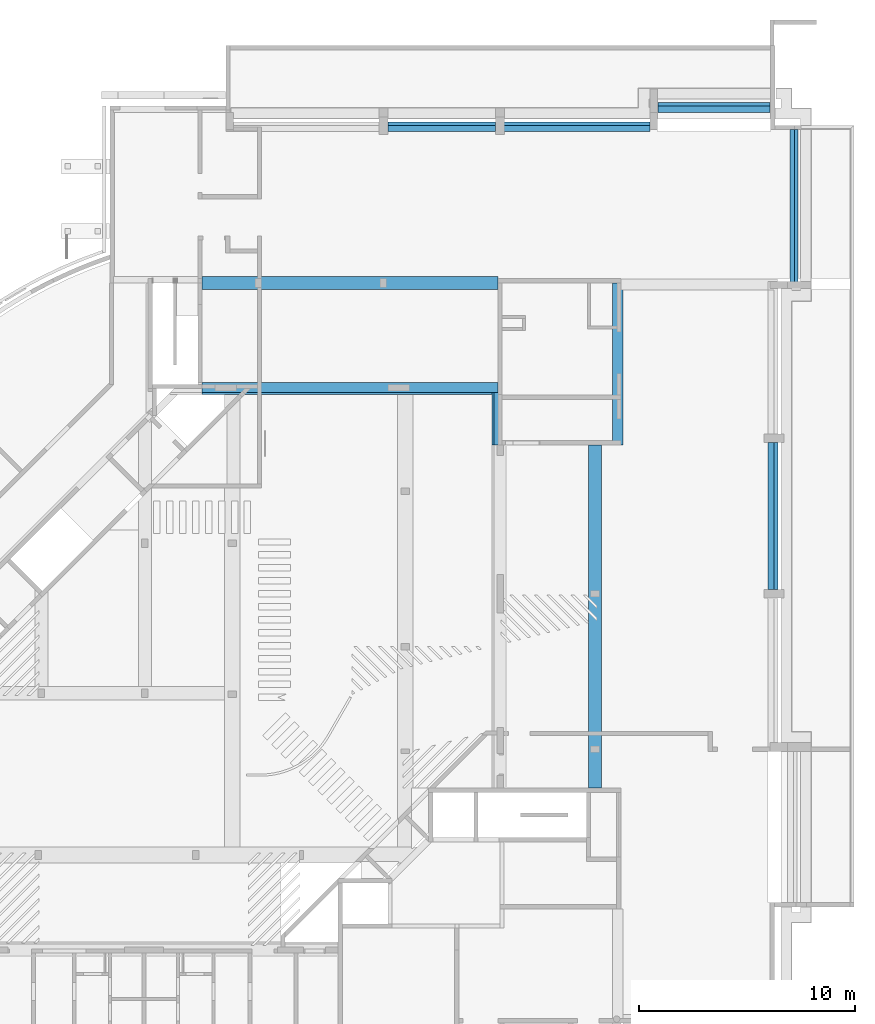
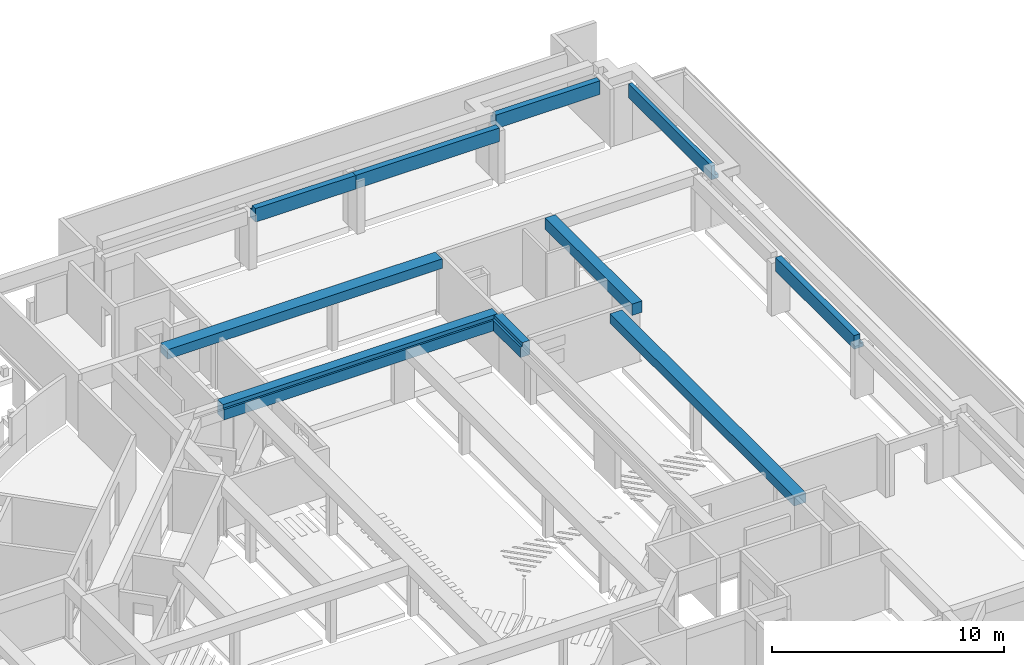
# One storey, part 3 of 22: 10 beams.
"""IFC4X3_ADD2 building model written with IfcOpenShell, lengths in millimetres."""

from ifc_helpers import new_model, si_unit, direction, frame, frame_2d, origin_with_axes, origin_2d_with_axis, place, context, subcontext, project, spatial, polyline, rectangle, outline, extrude, source, transform, mapped, material, type_object, type_shapes, element, save


model = new_model("IFC4X3_ADD2")

# Units and contexts
model_context = context("Model", 3, precision=1e-05, world=origin_with_axes(), true_north=direction((0.0, 1.0)))
body_context = subcontext(model_context, "Body", "Model", "MODEL_VIEW")
ifc_project = project(units=[si_unit("LENGTHUNIT", "METRE", prefix="MILLI"), si_unit("AREAUNIT", "SQUARE_METRE"), si_unit("VOLUMEUNIT", "CUBIC_METRE"), si_unit("PLANEANGLEUNIT", "RADIAN"), si_unit("TIMEUNIT", "SECOND"), si_unit("MASSUNIT", "GRAM")], contexts=[model_context])

# Site, building, storey
site_placement = place(None, origin_with_axes())
site = spatial("IfcSite", under=ifc_project, at=site_placement, Name="Site", CompositionType="ELEMENT")
building_placement = place(site_placement, origin_with_axes())
building = spatial("IfcBuilding", under=site, at=building_placement, Name="IFC Building Story")
storey_placement = place(building_placement, frame((0.0, 0.0, -3240.0), z_axis=(0.0, 0.0, 1.0), x_axis=(1.0, 0.0, 0.0)))
storey = spatial("IfcBuildingStorey", under=building, at=storey_placement, Name="K10", Elevation=-3240.0)

# Beams
ifc_material = material(Name="BB_Beton_Bestaand")
beam_type_1 = type_object("IfcBeamType", Name="BB_XX_Betonbalk_ L-vorm_ center-center_SFB_570 x 750 mm - 100 x 200 mm1", PredefinedType="NOTDEFINED")
shared_shape_1 = source(origin_with_axes(), body_context, "Body", "SweptSolid", [
    extrude(outline(polyline([(116.6666666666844, 223.3333333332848), (116.6666666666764, 123.3333333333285), (316.6666666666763, 123.3333333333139), (316.6666666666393, -346.6666666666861), (-433.3333333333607, -346.6666666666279), (-433.3333333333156, 223.3333333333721), (116.6666666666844, 223.3333333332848)])), frame((-26400.0, 38553.32926744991, -516.6666666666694), z_axis=(1.0, 0.0, 0.0), x_axis=(0.0, 0.0, 1.0)), (0.0, 0.0, 1.0), 13699.9959341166),
])
type_shapes(beam_type_1, [shared_shape_1])
beam_1_placement = place(storey_placement, frame((0.0, 0.0, 3240.0), z_axis=(0.0, 0.0, 1.0), x_axis=(1.0, 0.0, 0.0)))
element("IfcBeam", 1, at=beam_1_placement, inside=storey, type_object=beam_type_1, material=ifc_material, Name="BB_XX_Betonbalk, L-vorm, center-center_SFB:570 x 750 mm - 100 x 200 mm", ObjectType="570 x 750 mm - 100 x 200 mm", PredefinedType="BEAM", context=body_context, shape_type="MappedRepresentation", body=[
    mapped(shared_shape_1, transform((0.0, 0.0, 0.0))),
])
beam_type_2 = type_object("IfcBeamType", Name="BB_XX_Betonbalk_ rechthoekig_ center-center_SFB_600 x 500 mm45", PredefinedType="NOTDEFINED")
shared_shape_2 = source(origin_with_axes(), body_context, "Body", "SweptSolid", [
    extrude(rectangle(XDim=15900.0000000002, YDim=600.0, at=frame_2d((0.0, 0.0), x_axis=(0.0, 1.0))), frame((-8200.0, 28049.9999999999, -700.0), z_axis=(0.0, 0.0, 1.0), x_axis=(1.0, 0.0, 0.0)), (0.0, 0.0, 1.0), 500.0),
])
type_shapes(beam_type_2, [shared_shape_2])
beam_2_placement = place(storey_placement, frame((0.0, 0.0, 3240.0), z_axis=(0.0, 0.0, 1.0), x_axis=(1.0, 0.0, 0.0)))
element("IfcBeam", 2, at=beam_2_placement, inside=storey, type_object=beam_type_2, material=ifc_material, Name="BB_XX_Betonbalk, rechthoekig, center-center_SFB:600 x 500 mm", ObjectType="600 x 500 mm", PredefinedType="BEAM", context=body_context, shape_type="MappedRepresentation", body=[
    mapped(shared_shape_2, transform((0.0, 0.0, 0.0))),
])
beam_type_3 = type_object("IfcBeamType", Name="BB_XX_Betonbalk_ rechthoekig_ center-center_SFB_500 x 600 mm1", PredefinedType="NOTDEFINED")
shared_shape_3 = source(origin_with_axes(), body_context, "Body", "SweptSolid", [
    extrude(rectangle(XDim=7499.999999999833, YDim=500.0, at=frame_2d((0.0, 0.0), x_axis=(0.0, 1.0))), frame((-7150.0, 39749.99999999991, -680.0), z_axis=(0.0, 0.0, 1.0), x_axis=(1.0, 0.0, 0.0)), (0.0, 0.0, 1.0), 600.0),
])
type_shapes(beam_type_3, [shared_shape_3])
beam_3_placement = place(storey_placement, frame((0.0, 0.0, 3240.0), z_axis=(0.0, 0.0, 1.0), x_axis=(1.0, 0.0, 0.0)))
element("IfcBeam", 3, at=beam_3_placement, inside=storey, type_object=beam_type_3, material=ifc_material, Name="BB_XX_Betonbalk, rechthoekig, center-center_SFB:500 x 600 mm", ObjectType="600 x 500 mm", PredefinedType="BEAM", context=body_context, shape_type="MappedRepresentation", body=[
    mapped(shared_shape_3, transform((0.0, 0.0, 0.0))),
])
beam_type_4 = type_object("IfcBeamType", Name="BB_XX_Betonbalk_ L-vorm_ center-center_SFB_470 x 750 mm - 100 x 200 mm", PredefinedType="NOTDEFINED")
shared_shape_4 = source(origin_with_axes(), body_context, "Body", "SweptSolid", [
    extrude(outline(polyline([(-190.0, 433.3333333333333), (280.0, 433.3333333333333), (280.0, -316.6666666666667), (-90.0, -316.6666666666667), (-90.0, -116.6666666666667), (-190.0, -116.6666666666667), (-190.0, 433.3333333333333)])), frame((-12780.0, 35999.99999999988, -516.6666666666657), z_axis=(0.0, 1.0, 0.0), x_axis=(1.0, 0.0, 0.0)), (0.0, 0.0, 1.0), 2429.99593411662),
])
type_shapes(beam_type_4, [shared_shape_4])
beam_4_placement = place(storey_placement, frame((0.0, 0.0, 3240.0), z_axis=(0.0, 0.0, 1.0), x_axis=(1.0, 0.0, 0.0)))
element("IfcBeam", 4, at=beam_4_placement, inside=storey, type_object=beam_type_4, material=ifc_material, Name="BB_XX_Betonbalk, L-vorm, center-center_SFB:470 x 750 mm - 100 x 200 mm", ObjectType="470 x 750 mm - 100 x 200 mm", PredefinedType="BEAM", context=body_context, shape_type="MappedRepresentation", body=[
    mapped(shared_shape_4, transform((0.0, 0.0, 0.0))),
])
beam_type_5 = type_object("IfcBeamType", Name="BB_XX_Betonbalk_ rechthoekig_ center-center_SFB_600 x 500 mm49", PredefinedType="NOTDEFINED")
shared_shape_5 = source(origin_with_axes(), body_context, "Body", "SweptSolid", [
    extrude(rectangle(XDim=13699.9959341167, YDim=600.0, at=origin_2d_with_axis()), frame((-4.001776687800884e-11, 0.0, -250.0), z_axis=(0.0, 0.0, 1.0), x_axis=(1.0, 0.0, 0.0)), (0.0, 0.0, 1.0), 500.0),
])
type_shapes(beam_type_5, [shared_shape_5])
beam_5_placement = place(storey_placement, frame((-19550.002032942, 43500.0, 2790.0), z_axis=(0.0, 0.0, 1.0), x_axis=(1.0, 0.0, 0.0)))
element("IfcBeam", 5, at=beam_5_placement, inside=storey, type_object=beam_type_5, material=ifc_material, Name="BB_XX_Betonbalk, rechthoekig, center-center_SFB:600 x 500 mm", ObjectType="600 x 500 mm", PredefinedType="BEAM", context=body_context, shape_type="MappedRepresentation", body=[
    mapped(shared_shape_5, transform((0.0, 0.0, 0.0))),
])
beam_type_6 = type_object("IfcBeamType", Name="BB_XX_Betonbalk_ L-vorm_ center-center_SFB_460 x 720 mm - 170 x 510 mm1", PredefinedType="NOTDEFINED")
shared_shape_6 = source(origin_with_axes(), body_context, "Body", "SweptSolid", [
    extrude(outline(polyline([(410.000000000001, 249.9999999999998), (410.000000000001, -40.0), (-100.000000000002, -39.99999999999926), (-100.000000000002, -210.0), (-309.999999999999, -210.0), (-309.999999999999, 249.9999999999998), (410.000000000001, 249.9999999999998)])), frame((-3400.0, 19.99999999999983, -49.99999999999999), z_axis=(1.0, 0.0, 0.0), x_axis=(0.0, 0.0, 1.0)), (0.0, 0.0, 1.0), 6800.00000000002),
])
type_shapes(beam_type_6, [shared_shape_6])
beam_6_placement = place(storey_placement, frame((35.0, 32700.0, 2680.0), z_axis=(0.0, 0.0, 1.0), x_axis=(0.0, -1.0, 0.0)))
element("IfcBeam", 6, at=beam_6_placement, inside=storey, type_object=beam_type_6, material=ifc_material, Name="BB_XX_Betonbalk, L-vorm, center-center_SFB:460 x 720 mm - 170 x 510 mm", ObjectType="460 x 720 mm - 170 x 510 mm", PredefinedType="BEAM", context=body_context, shape_type="MappedRepresentation", body=[
    mapped(shared_shape_6, transform((0.0, 0.0, 0.0))),
])
beam_type_7 = type_object("IfcBeamType", Name="BB_XX_Betonbalk_ L-vorm_ center-center_SFB_360 x 720 mm - 170 x 520 mm", PredefinedType="NOTDEFINED")
shared_shape_7 = source(origin_with_axes(), body_context, "Body", "SweptSolid", [
    extrude(outline(polyline([(176.6666666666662, 106.6666666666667), (6.666666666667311, 106.6666666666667), (6.666666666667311, -413.3333333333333), (-183.3333333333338, -413.3333333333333), (-183.3333333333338, 306.6666666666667), (176.6666666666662, 306.6666666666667), (176.6666666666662, 106.6666666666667)])), frame((1023.33333333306, 43425.00000000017, -613.3333333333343), z_axis=(0.0, 1.0, 0.0), x_axis=(1.0, 0.0, 0.0)), (0.0, 0.0, 1.0), 7175.02750775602),
])
type_shapes(beam_type_7, [shared_shape_7])
beam_7_placement = place(storey_placement, frame((0.0, 0.0, 3240.0), z_axis=(0.0, 0.0, 1.0), x_axis=(1.0, 0.0, 0.0)))
element("IfcBeam", 7, at=beam_7_placement, inside=storey, type_object=beam_type_7, material=ifc_material, Name="BB_XX_Betonbalk, L-vorm, center-center_SFB:360 x 720 mm - 170 x 520 mm", ObjectType="360 x 720 mm - 170 x 520 mm", PredefinedType="BEAM", context=body_context, shape_type="MappedRepresentation", body=[
    mapped(shared_shape_7, transform((0.0, 0.0, 0.0))),
])
beam_type_8 = type_object("IfcBeamType", Name="BB_XX_Betonbalk_ L-vorm_ center-center_SFB_460 x 720 mm - 170 x 270 mm", PredefinedType="NOTDEFINED")
shared_shape_8 = source(origin_with_axes(), body_context, "Body", "SweptSolid", [
    extrude(outline(polyline([(329.999999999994, 250.0000000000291), (330.000000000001, -39.99999999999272), (60.0, -40.0), (60.00000000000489, -209.9999999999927), (-389.999999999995, -210.0000000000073), (-390.000000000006, 249.9999999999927), (329.999999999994, 250.0000000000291)])), frame((-5292.299999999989, 51655.0, -530.0), z_axis=(1.0, 0.0, 0.0), x_axis=(0.0, 0.0, 1.0)), (0.0, 0.0, 1.0), 5192.300000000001),
])
type_shapes(beam_type_8, [shared_shape_8])
beam_8_placement = place(storey_placement, frame((0.0, 0.0, 3240.0), z_axis=(0.0, 0.0, 1.0), x_axis=(1.0, 0.0, 0.0)))
element("IfcBeam", 8, at=beam_8_placement, inside=storey, type_object=beam_type_8, material=ifc_material, Name="BB_XX_Betonbalk, L-vorm, center-center_SFB:460 x 720 mm - 170 x 270 mm", ObjectType="460 x 720 mm - 170 x 270 mm", PredefinedType="BEAM", context=body_context, shape_type="MappedRepresentation", body=[
    mapped(shared_shape_8, transform((0.0, 0.0, 0.0))),
])
beam_type_9 = type_object("IfcBeamType", Name="BB_XX_Betonbalk_ L-vorm_ center-center_SFB_460 x 720 mm - 170 x 250 mm", PredefinedType="NOTDEFINED")
shared_shape_9 = source(origin_with_axes(), body_context, "Body", "SweptSolid", [
    extrude(outline(polyline([(323.3333333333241, 250.0000000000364), (323.3333333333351, -39.99999999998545), (73.33333333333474, -40.00000000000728), (73.33333333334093, -210.0), (-396.6666666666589, -210.0000000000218), (-396.666666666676, 249.9999999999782), (323.3333333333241, 250.0000000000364)])), frame((-12845.0, 50755.0, -523.3333333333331), z_axis=(1.0, 0.0, 0.0), x_axis=(0.0, 0.0, 1.0)), (0.0, 0.0, 1.0), 7200.0000000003),
])
type_shapes(beam_type_9, [shared_shape_9])
beam_9_placement = place(storey_placement, frame((0.0, 0.0, 3240.0), z_axis=(0.0, 0.0, 1.0), x_axis=(1.0, 0.0, 0.0)))
element("IfcBeam", 9, at=beam_9_placement, inside=storey, type_object=beam_type_9, material=ifc_material, Name="BB_XX_Betonbalk, L-vorm, center-center_SFB:460 x 720 mm - 170 x 250 mm", ObjectType="460 x 720 mm - 170 x 250 mm", PredefinedType="BEAM", context=body_context, shape_type="MappedRepresentation", body=[
    mapped(shared_shape_9, transform((0.0, 0.0, 0.0))),
])
beam_type_10 = type_object("IfcBeamType", Name="BB_XX_Betonbalk_ L-vorm_ center-center_SFB_460 x 720 mm - 170 x 250 mm1", PredefinedType="NOTDEFINED")
shared_shape_10 = source(origin_with_axes(), body_context, "Body", "SweptSolid", [
    extrude(outline(polyline([(323.3333333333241, 250.0000000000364), (323.3333333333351, -39.99999999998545), (73.33333333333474, -40.00000000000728), (73.33333333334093, -210.0), (-396.6666666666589, -210.0000000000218), (-396.666666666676, 249.9999999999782), (323.3333333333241, 250.0000000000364)])), frame((-2500.0, 20.0, 36.66666666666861), z_axis=(1.0, 0.0, 0.0), x_axis=(0.0, 0.0, 1.0)), (0.0, 0.0, 1.0), 5000.0),
])
type_shapes(beam_type_10, [shared_shape_10])
beam_10_placement = place(storey_placement, frame((-15299.3313868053, 50735.0, 2680.0), z_axis=(0.0, 0.0, 1.0), x_axis=(1.0, 0.0, 0.0)))
element("IfcBeam", 10, at=beam_10_placement, inside=storey, type_object=beam_type_10, material=ifc_material, Name="BB_XX_Betonbalk, L-vorm, center-center_SFB:460 x 720 mm - 170 x 250 mm", ObjectType="460 x 720 mm - 170 x 250 mm", PredefinedType="BEAM", context=body_context, shape_type="MappedRepresentation", body=[
    mapped(shared_shape_10, transform((0.0, 0.0, 0.0))),
])

save(model, "model.ifc")
